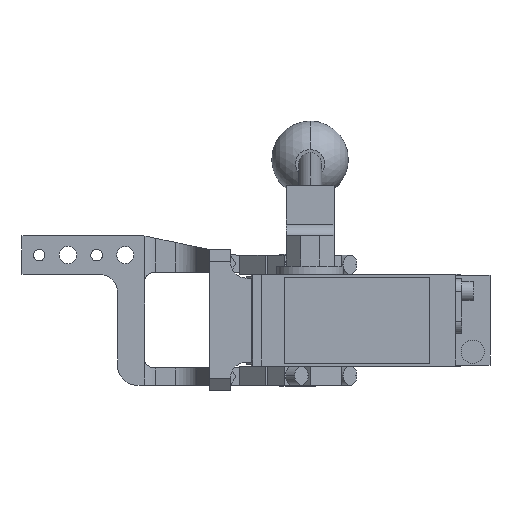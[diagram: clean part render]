
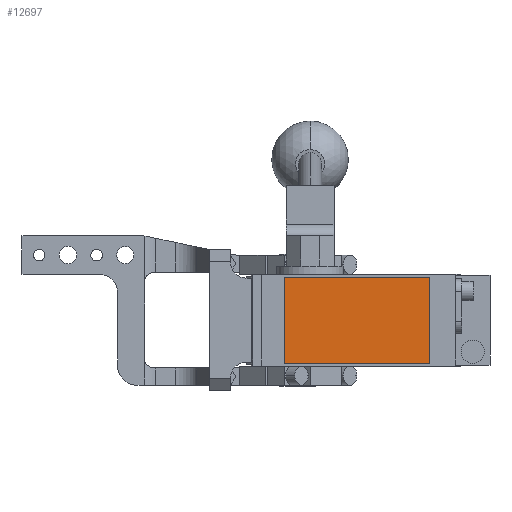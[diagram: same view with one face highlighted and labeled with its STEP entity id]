
A CAD part, front view. The second image highlights one B-rep face of the part: STEP entity #12697.
In plain terms, the highlighted planar face has unit normal (0, -1, 0).
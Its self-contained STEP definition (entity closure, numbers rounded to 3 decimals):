
#243 = CARTESIAN_POINT ( 'NONE',  ( -7., -280.5, -22.5 ) ) ;
#319 = CARTESIAN_POINT ( 'NONE',  ( 69., -280.5, 22.5 ) ) ;
#445 = LINE ( 'NONE', #13011, #2309 ) ;
#880 = DIRECTION ( 'NONE',  ( 0., -1., 0. ) ) ;
#1638 = VERTEX_POINT ( 'NONE', #15219 ) ;
#1778 = DIRECTION ( 'NONE',  ( 0., 0., -1. ) ) ;
#1964 = CARTESIAN_POINT ( 'NONE',  ( -7., -280.5, 22.5 ) ) ;
#2309 = VECTOR ( 'NONE', #12931, 1000. ) ;
#3122 = EDGE_CURVE ( 'NONE', #1638, #8230, #4207, .T. ) ;
#3258 = ORIENTED_EDGE ( 'NONE', *, *, #15573, .T. ) ;
#3890 = FACE_OUTER_BOUND ( 'NONE', #4156, .T. ) ;
#4156 = EDGE_LOOP ( 'NONE', ( #14192, #13503, #12016, #3258 ) ) ;
#4207 = LINE ( 'NONE', #10423, #8490 ) ;
#4249 = DIRECTION ( 'NONE',  ( 0., 0., -1. ) ) ;
#5148 = VECTOR ( 'NONE', #4249, 1000. ) ;
#6477 = DIRECTION ( 'NONE',  ( 0., 0., 1. ) ) ;
#6749 = VECTOR ( 'NONE', #13681, 1000. ) ;
#6813 = CARTESIAN_POINT ( 'NONE',  ( 0., -280.5, 0. ) ) ;
#8230 = VERTEX_POINT ( 'NONE', #319 ) ;
#8254 = EDGE_CURVE ( 'NONE', #11165, #1638, #8987, .T. ) ;
#8490 = VECTOR ( 'NONE', #6477, 1000. ) ;
#8987 = LINE ( 'NONE', #243, #6749 ) ;
#10423 = CARTESIAN_POINT ( 'NONE',  ( 69., -280.5, 22.5 ) ) ;
#10543 = LINE ( 'NONE', #1964, #5148 ) ;
#11107 = CARTESIAN_POINT ( 'NONE',  ( -7., -280.5, 22.5 ) ) ;
#11165 = VERTEX_POINT ( 'NONE', #12502 ) ;
#11970 = PLANE ( 'NONE',  #14408 ) ;
#12016 = ORIENTED_EDGE ( 'NONE', *, *, #3122, .T. ) ;
#12502 = CARTESIAN_POINT ( 'NONE',  ( -7., -280.5, -22.5 ) ) ;
#12563 = EDGE_CURVE ( 'NONE', #15820, #11165, #10543, .T. ) ;
#12697 = ADVANCED_FACE ( 'NONE', ( #3890 ), #11970, .T. ) ;
#12931 = DIRECTION ( 'NONE',  ( -1., 0., 0. ) ) ;
#13011 = CARTESIAN_POINT ( 'NONE',  ( -7., -280.5, 22.5 ) ) ;
#13503 = ORIENTED_EDGE ( 'NONE', *, *, #8254, .T. ) ;
#13681 = DIRECTION ( 'NONE',  ( 1., 0., 0. ) ) ;
#14192 = ORIENTED_EDGE ( 'NONE', *, *, #12563, .T. ) ;
#14408 = AXIS2_PLACEMENT_3D ( 'NONE', #6813, #880, #1778 ) ;
#15219 = CARTESIAN_POINT ( 'NONE',  ( 69., -280.5, -22.5 ) ) ;
#15573 = EDGE_CURVE ( 'NONE', #8230, #15820, #445, .T. ) ;
#15820 = VERTEX_POINT ( 'NONE', #11107 ) ;
